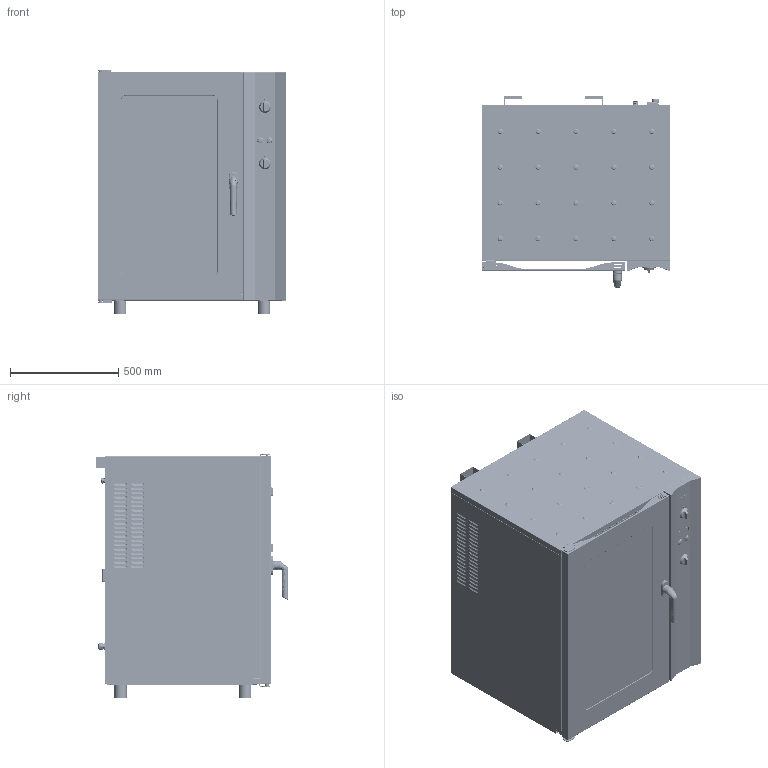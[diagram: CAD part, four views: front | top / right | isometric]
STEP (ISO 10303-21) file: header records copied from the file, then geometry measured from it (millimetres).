
FILE_DESCRIPTION(/* description */ (''),/* implementation_level */ '2;1');
FILE_NAME(/* name */ 'ALFA341VE.stp',/* time_stamp */ '2014-05-06T15:26:20+02:00',/* author */ (''),/* organization */ (''),/* preprocessor_version */ 'ST-DEVELOPER v11',/* originating_system */ 'SIEMENS PLM Software NX 7.5',/* authorisation */ '');
FILE_SCHEMA (('AUTOMOTIVE_DESIGN { 1 0 10303 214 1 1 1 1 }'));
Products named in the file (1): FAVEB5745b7t
Bounding box: 872.27 x 888.86 x 1126.9 mm (x, y, z)
Volume: 8524309.5 mm3; surface area: 12248821.1 mm2
Topology: 42 solids, 46 shells, 5247 faces, 13591 edges, 8312 vertices
Faces by surface type: plane 2052, cylinder 1857, bspline 491, torus 464, sphere 254, cone 90, extrusion 39
Full cylindrical faces by diameter (mm): 0.989 x2, 2.15 x2, 3 x22, 3.2 x35, 3.25 x10, 3.3 x1, 3.4 x2, 3.5 x7, 4 x11, 4.351 x3, 4.5 x57, 4.968 x6, 5 x10, 5.2 x4, 5.3 x3, 5.5 x4, 6 x6, 6.5 x1, 6.985 x4, 8 x2, 9 x10, 9.838 x4, 10 x6, 10.1 x1, 10.5 x1, 11 x1, 12 x1, 13 x1, 13.2 x1, 14 x2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
Entity records: 176968 total; most frequent: CARTESIAN_POINT 53835, ORIENTED_EDGE 25140, DIRECTION 25022, EDGE_CURVE 12595, AXIS2_PLACEMENT_3D 9417, VERTEX_POINT 7970, EDGE_LOOP 6725, VECTOR 6188
